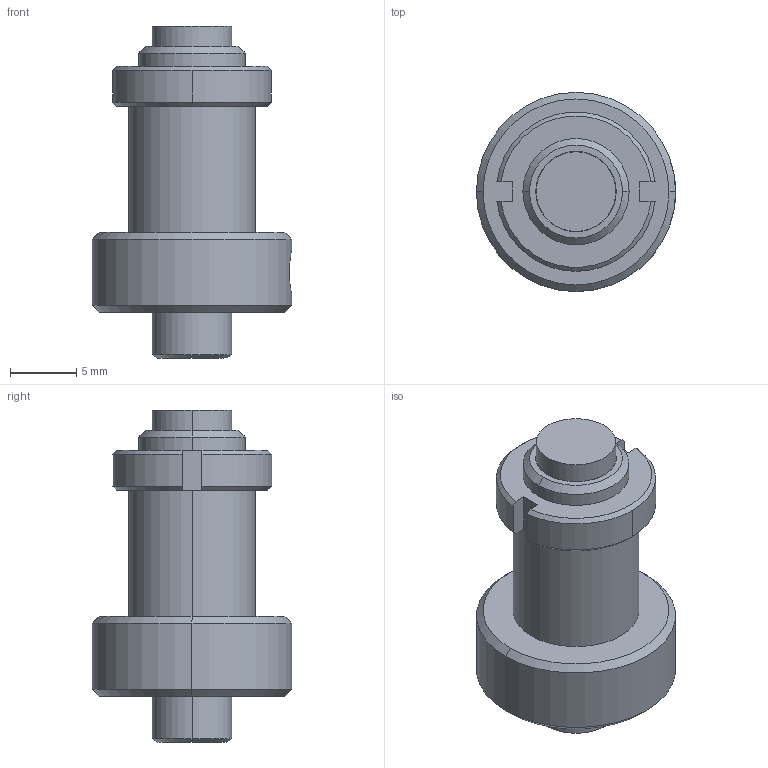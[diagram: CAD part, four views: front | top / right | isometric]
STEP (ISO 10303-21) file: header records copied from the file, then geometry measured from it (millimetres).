
FILE_DESCRIPTION (( 'STEP AP203' ), '1' );
FILE_NAME ('9SH127BN-5.STEP', '2007-09-18T13:47:41', ( 'STANDA' ), ( '' ), 'SwSTEP 2.0', 'SolidWorks 2003240', '' );
FILE_SCHEMA (( 'CONFIG_CONTROL_DESIGN' ));
Length unit declared in the file: millimetre
Products named in the file (1): 9SH127BN-5
Bounding box: 15 x 15 x 25 mm (x, y, z)
Volume: 2178.3 mm3; surface area: 1326.1 mm2
Topology: 1 solids, 2 shells, 80 faces, 190 edges, 117 vertices
Faces by surface type: plane 33, cone 27, cylinder 20
Entity records: 2500 total; most frequent: CARTESIAN_POINT 596, DIRECTION 387, ORIENTED_EDGE 372, EDGE_CURVE 186, AXIS2_PLACEMENT_3D 148, VERTEX_POINT 117, VECTOR 91, LINE 91
